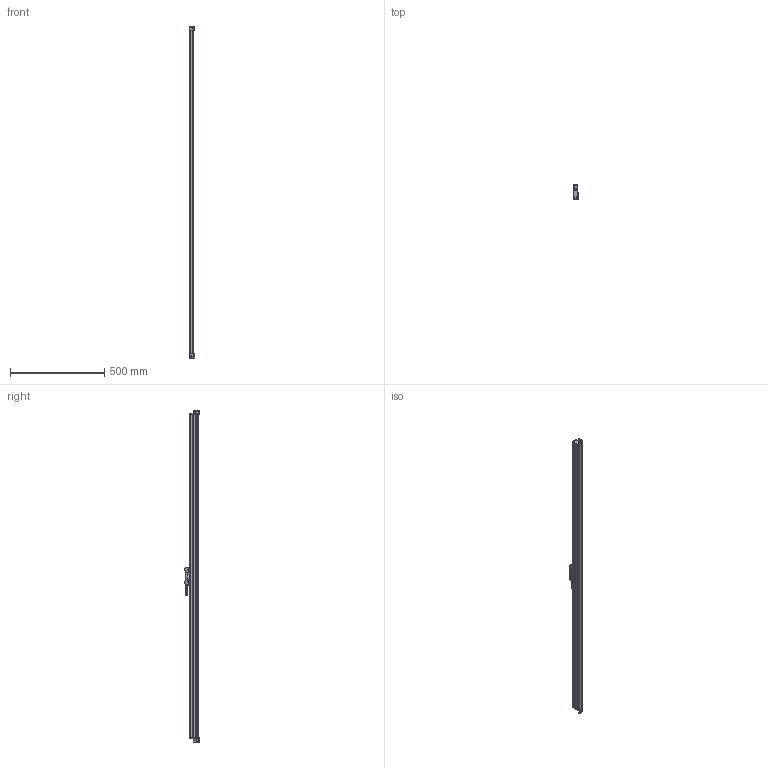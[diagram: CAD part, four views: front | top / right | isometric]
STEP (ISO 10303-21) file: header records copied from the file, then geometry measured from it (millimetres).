
FILE_DESCRIPTION (( 'STEP AP214' ), '1' );
FILE_NAME ('MLC310x1600.STEP', '2021-05-08T11:54:07', ( '' ), ( '' ), 'SwSTEP 2.0', 'SolidWorks 2014', '' );
FILE_SCHEMA (( 'AUTOMOTIVE_DESIGN' ));
Length unit declared in the file: millimetre
Products named in the file (1): MLC310x1600
Bounding box: 27 x 75.15 x 1764 mm (x, y, z)
Surface area: 299731.4 mm2 (no closed solid volume)
Topology: 0 solids, 18 shells, 354 faces, 1238 edges, 894 vertices
Faces by surface type: plane 146, cylinder 125, cone 59, bspline 18, torus 6
Entity records: 26599 total; most frequent: CARTESIAN_POINT 12326, DIRECTION 2142, ORIENTED_EDGE 1878, EDGE_CURVE 1238, VERTEX_POINT 894, AXIS2_PLACEMENT_3D 741, VECTOR 660, LINE 660
